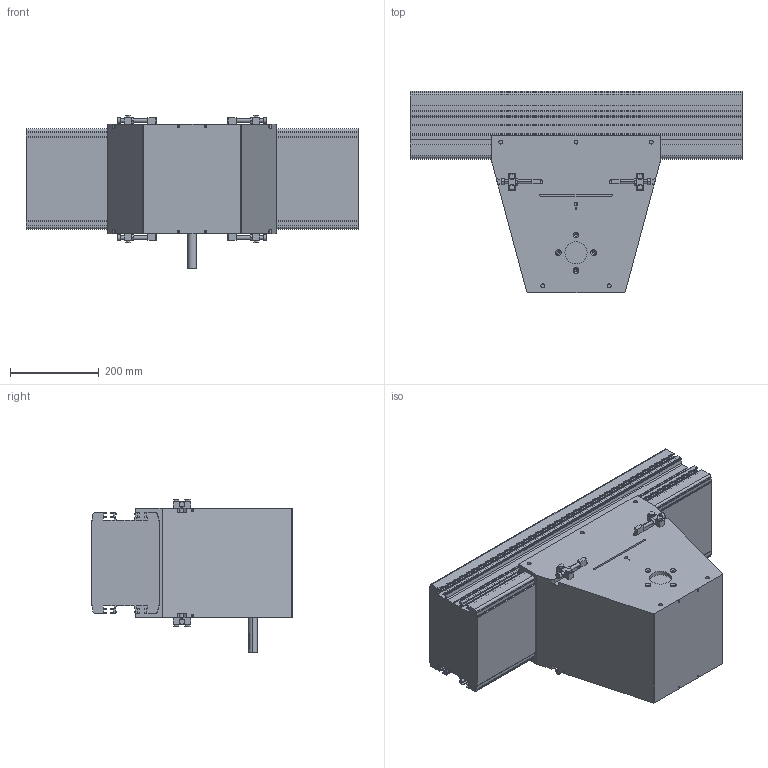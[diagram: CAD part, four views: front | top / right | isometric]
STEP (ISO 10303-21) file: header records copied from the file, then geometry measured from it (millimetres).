
FILE_DESCRIPTION (( 'STEP AP214' ), '1' );
FILE_NAME ('F2 750 MID.step', '2017-04-05T07:34:44', ( '' ), ( '' ), 'SwSTEP 2.0', 'SolidWorks 2015', '' );
FILE_SCHEMA (( 'AUTOMOTIVE_DESIGN' ));
Length unit declared in the file: millimetre
Products named in the file (1): F2 750 MID
Bounding box: 750 x 454.7 x 346.4 mm (x, y, z)
Volume: 51382431.8 mm3; surface area: 1540939.4 mm2
Topology: 31 solids, 35 shells, 668 faces, 1655 edges, 1044 vertices
Faces by surface type: plane 351, cylinder 233, cone 68, torus 16
Entity records: 26355 total; most frequent: DIRECTION 3449, CARTESIAN_POINT 3387, ORIENTED_EDGE 3206, EDGE_CURVE 1603, AXIS2_PLACEMENT_3D 1180, VECTOR 1089, LINE 1089, VERTEX_POINT 1044
